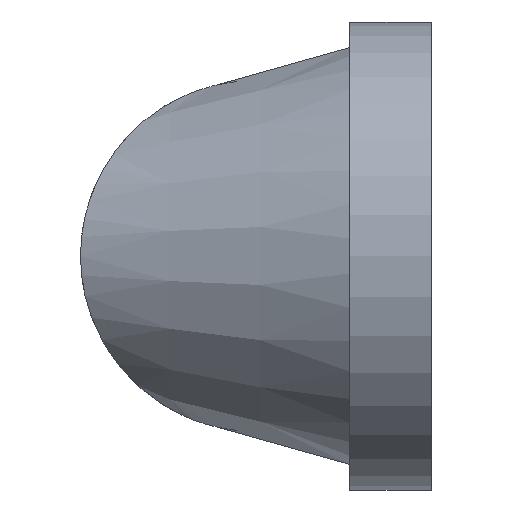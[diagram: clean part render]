
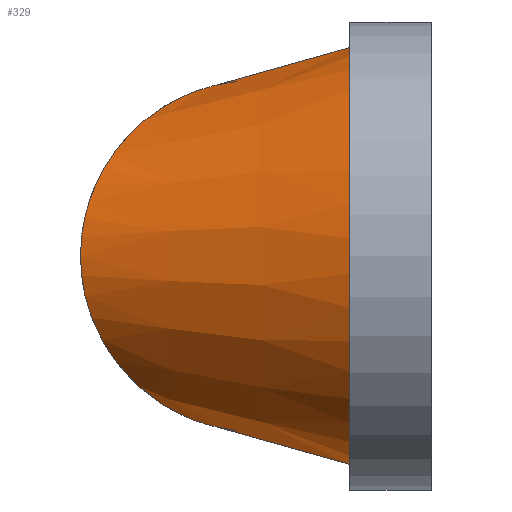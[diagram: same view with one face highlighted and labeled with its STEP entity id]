
A CAD part, left-side view. The second image highlights one B-rep face of the part: STEP entity #329.
In plain terms, the highlighted conical face has half-angle 15.465 degrees and reference radius 11.7 mm.
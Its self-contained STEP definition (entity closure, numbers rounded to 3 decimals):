
#7 = EDGE_CURVE ( 'NONE', #655, #306, #58, .T. ) ;
#14 = CARTESIAN_POINT ( 'NONE',  ( -10.36, 28.662, -6.208 ) ) ;
#22 = CARTESIAN_POINT ( 'NONE',  ( -2.886, 19.222, 14.395 ) ) ;
#23 = CARTESIAN_POINT ( 'NONE',  ( -6.086, 24.242, 11.84 ) ) ;
#36 = CARTESIAN_POINT ( 'NONE',  ( -11.354, 29.656, 3.228 ) ) ;
#38 = CARTESIAN_POINT ( 'NONE',  ( -11.522, 29.823, -2.342 ) ) ;
#39 = DIRECTION ( 'NONE',  ( 0., -1., 0. ) ) ;
#41 = CARTESIAN_POINT ( 'NONE',  ( -3., 18.302, 14.632 ) ) ;
#46 = CARTESIAN_POINT ( 'NONE',  ( -3., 18.302, -14.632 ) ) ;
#58 = B_SPLINE_CURVE_WITH_KNOTS ( 'NONE', 3,
 ( #600, #489, #312, #371, #264, #119, #398, #146, #95, #193, #449, #318, #602, #671, #288, #374, #75, #240, #122, #622, #654, #14, #171, #226, #323, #38, #125, #268, #541, #488, #342, #36, #665, #333, #612, #280, #558, #233, #497, #179, #438, #133, #386, #85, #230, #23, #663, #330, #607, #277, #178, #553, #131, #492, #80, #435, #22, #381, #274, #659 ),
 .UNSPECIFIED., .F., .F.,
 ( 4, 2, 2, 2, 2, 2, 2, 2, 2, 2, 2, 2, 2, 2, 2, 2, 2, 2, 2, 2, 2, 2, 2, 2, 2, 2, 2, 2, 2, 4 ),
 ( 0., 0.001, 0.001, 0.002, 0.003, 0.004, 0.006, 0.009, 0.011, 0.014, 0.016, 0.017, 0.02, 0.021, 0.023, 0.026, 0.027, 0.028, 0.03, 0.031, 0.034, 0.036, 0.037, 0.04, 0.041, 0.043, 0.043, 0.044, 0.045, 0.046 ),
 .UNSPECIFIED. ) ;
#67 = EDGE_CURVE ( 'NONE', #655, #167, #111, .T. ) ;
#75 = CARTESIAN_POINT ( 'NONE',  ( -7.682, 25.936, -10.298 ) ) ;
#80 = CARTESIAN_POINT ( 'NONE',  ( -3.005, 19.892, 14.182 ) ) ;
#85 = CARTESIAN_POINT ( 'NONE',  ( -7.166, 25.394, 10.823 ) ) ;
#94 = CARTESIAN_POINT ( 'NONE',  ( -3., 18.302, 14.632 ) ) ;
#95 = CARTESIAN_POINT ( 'NONE',  ( -3.351, 20.713, -13.871 ) ) ;
#111 = B_SPLINE_CURVE_WITH_KNOTS ( 'NONE', 3,
 ( #504, #138, #563, #185 ),
 .UNSPECIFIED., .F., .F.,
 ( 4, 4 ),
 ( 0.036, 0.048 ),
 .UNSPECIFIED. ) ;
#112 = EDGE_LOOP ( 'NONE', ( #485, #190, #471, #170 ) ) ;
#119 = CARTESIAN_POINT ( 'NONE',  ( -3.005, 19.893, -14.182 ) ) ;
#122 = CARTESIAN_POINT ( 'NONE',  ( -9.149, 27.44, -8.422 ) ) ;
#125 = CARTESIAN_POINT ( 'NONE',  ( -11.589, 29.889, -1.877 ) ) ;
#131 = CARTESIAN_POINT ( 'NONE',  ( -3.251, 20.517, 13.95 ) ) ;
#133 = CARTESIAN_POINT ( 'NONE',  ( -7.945, 26.206, 9.979 ) ) ;
#138 = CARTESIAN_POINT ( 'NONE',  ( -3., 14.536, -15.696 ) ) ;
#146 = CARTESIAN_POINT ( 'NONE',  ( -3.251, 20.518, -13.95 ) ) ;
#159 = B_SPLINE_CURVE_WITH_KNOTS ( 'NONE', 3,
 ( #294, #244, #345, #41 ),
 .UNSPECIFIED., .F., .F.,
 ( 4, 4 ),
 ( 0.033, 0.045 ),
 .UNSPECIFIED. ) ;
#167 = VERTEX_POINT ( 'NONE', #428 ) ;
#170 = ORIENTED_EDGE ( 'NONE', *, *, #202, .T. ) ;
#171 = CARTESIAN_POINT ( 'NONE',  ( -10.536, 28.838, -5.805 ) ) ;
#178 = CARTESIAN_POINT ( 'NONE',  ( -3.675, 21.283, 13.627 ) ) ;
#179 = CARTESIAN_POINT ( 'NONE',  ( -9.151, 27.443, 8.419 ) ) ;
#185 = CARTESIAN_POINT ( 'NONE',  ( -3., 7., -17.812 ) ) ;
#190 = ORIENTED_EDGE ( 'NONE', *, *, #7, .F. ) ;
#193 = CARTESIAN_POINT ( 'NONE',  ( -3.675, 21.283, -13.627 ) ) ;
#199 = CARTESIAN_POINT ( 'NONE',  ( 0., 7., 0. ) ) ;
#200 = CARTESIAN_POINT ( 'NONE',  ( -3., 7., 17.812 ) ) ;
#202 = EDGE_CURVE ( 'NONE', #167, #598, #629, .T. ) ;
#226 = CARTESIAN_POINT ( 'NONE',  ( -11.011, 29.314, -4.57 ) ) ;
#230 = CARTESIAN_POINT ( 'NONE',  ( -6.898, 25.11, 11.087 ) ) ;
#233 = CARTESIAN_POINT ( 'NONE',  ( -9.99, 28.29, 6.969 ) ) ;
#240 = CARTESIAN_POINT ( 'NONE',  ( -8.683, 26.967, -9.079 ) ) ;
#242 = DIRECTION ( 'NONE',  ( 0., 0., -1. ) ) ;
#244 = CARTESIAN_POINT ( 'NONE',  ( -3., 10.768, 16.755 ) ) ;
#264 = CARTESIAN_POINT ( 'NONE',  ( -2.908, 19.446, -14.328 ) ) ;
#268 = CARTESIAN_POINT ( 'NONE',  ( -11.677, 29.978, -0.944 ) ) ;
#274 = CARTESIAN_POINT ( 'NONE',  ( -2.937, 18.529, 14.581 ) ) ;
#277 = CARTESIAN_POINT ( 'NONE',  ( -3.923, 21.64, 13.456 ) ) ;
#280 = CARTESIAN_POINT ( 'NONE',  ( -10.54, 28.842, 5.795 ) ) ;
#288 = CARTESIAN_POINT ( 'NONE',  ( -6.083, 24.237, -11.843 ) ) ;
#294 = CARTESIAN_POINT ( 'NONE',  ( -3., 7., 17.812 ) ) ;
#306 = VERTEX_POINT ( 'NONE', #94 ) ;
#312 = CARTESIAN_POINT ( 'NONE',  ( -2.9, 18.757, -14.524 ) ) ;
#318 = CARTESIAN_POINT ( 'NONE',  ( -4.441, 22.331, -13.092 ) ) ;
#323 = CARTESIAN_POINT ( 'NONE',  ( -11.262, 29.564, -3.707 ) ) ;
#329 = ADVANCED_FACE ( 'NONE', ( #463 ), #596, .T. ) ;
#330 = CARTESIAN_POINT ( 'NONE',  ( -4.714, 22.667, 12.898 ) ) ;
#333 = CARTESIAN_POINT ( 'NONE',  ( -10.998, 29.3, 4.55 ) ) ;
#342 = CARTESIAN_POINT ( 'NONE',  ( -11.611, 29.911, 1.871 ) ) ;
#345 = CARTESIAN_POINT ( 'NONE',  ( -3., 14.536, 15.696 ) ) ;
#347 = EDGE_CURVE ( 'NONE', #598, #306, #159, .T. ) ;
#356 = AXIS2_PLACEMENT_3D ( 'NONE', #199, #690, #680 ) ;
#371 = CARTESIAN_POINT ( 'NONE',  ( -2.885, 19.214, -14.398 ) ) ;
#374 = CARTESIAN_POINT ( 'NONE',  ( -7.157, 25.389, -10.847 ) ) ;
#381 = CARTESIAN_POINT ( 'NONE',  ( -2.9, 18.761, 14.523 ) ) ;
#386 = CARTESIAN_POINT ( 'NONE',  ( -7.69, 25.942, 10.268 ) ) ;
#398 = CARTESIAN_POINT ( 'NONE',  ( -3.078, 20.109, -14.105 ) ) ;
#428 = CARTESIAN_POINT ( 'NONE',  ( -3., 7., -17.812 ) ) ;
#435 = CARTESIAN_POINT ( 'NONE',  ( -2.909, 19.448, 14.327 ) ) ;
#438 = CARTESIAN_POINT ( 'NONE',  ( -8.687, 26.971, 9.073 ) ) ;
#449 = CARTESIAN_POINT ( 'NONE',  ( -3.923, 21.64, -13.456 ) ) ;
#463 = FACE_OUTER_BOUND ( 'NONE', #112, .T. ) ;
#471 = ORIENTED_EDGE ( 'NONE', *, *, #67, .T. ) ;
#485 = ORIENTED_EDGE ( 'NONE', *, *, #347, .T. ) ;
#488 = CARTESIAN_POINT ( 'NONE',  ( -11.7, 30., 0.946 ) ) ;
#489 = CARTESIAN_POINT ( 'NONE',  ( -2.937, 18.529, -14.581 ) ) ;
#492 = CARTESIAN_POINT ( 'NONE',  ( -3.078, 20.109, 14.105 ) ) ;
#497 = CARTESIAN_POINT ( 'NONE',  ( -9.787, 28.086, 7.345 ) ) ;
#504 = CARTESIAN_POINT ( 'NONE',  ( -3., 18.302, -14.632 ) ) ;
#541 = CARTESIAN_POINT ( 'NONE',  ( -11.7, 30., -0.474 ) ) ;
#553 = CARTESIAN_POINT ( 'NONE',  ( -3.351, 20.713, 13.871 ) ) ;
#558 = CARTESIAN_POINT ( 'NONE',  ( -10.367, 28.668, 6.194 ) ) ;
#563 = CARTESIAN_POINT ( 'NONE',  ( -3., 10.768, -16.755 ) ) ;
#592 = AXIS2_PLACEMENT_3D ( 'NONE', #674, #39, #242 ) ;
#596 = CONICAL_SURFACE ( 'NONE', #592, 11.7, 0.27 ) ;
#598 = VERTEX_POINT ( 'NONE', #200 ) ;
#600 = CARTESIAN_POINT ( 'NONE',  ( -3., 18.302, -14.632 ) ) ;
#602 = CARTESIAN_POINT ( 'NONE',  ( -4.713, 22.665, -12.899 ) ) ;
#607 = CARTESIAN_POINT ( 'NONE',  ( -4.442, 22.333, 13.091 ) ) ;
#612 = CARTESIAN_POINT ( 'NONE',  ( -10.856, 29.158, 4.973 ) ) ;
#622 = CARTESIAN_POINT ( 'NONE',  ( -9.783, 28.081, -7.352 ) ) ;
#629 = CIRCLE ( 'NONE', #356, 18.063 ) ;
#654 = CARTESIAN_POINT ( 'NONE',  ( -9.984, 28.283, -6.981 ) ) ;
#655 = VERTEX_POINT ( 'NONE', #46 ) ;
#659 = CARTESIAN_POINT ( 'NONE',  ( -3., 18.302, 14.632 ) ) ;
#663 = CARTESIAN_POINT ( 'NONE',  ( -5.533, 23.635, 12.289 ) ) ;
#665 = CARTESIAN_POINT ( 'NONE',  ( -11.247, 29.549, 3.678 ) ) ;
#671 = CARTESIAN_POINT ( 'NONE',  ( -5.531, 23.633, -12.29 ) ) ;
#674 = CARTESIAN_POINT ( 'NONE',  ( 0., 30., 0. ) ) ;
#680 = DIRECTION ( 'NONE',  ( 0., 0., 1. ) ) ;
#690 = DIRECTION ( 'NONE',  ( 0., 1., 0. ) ) ;
